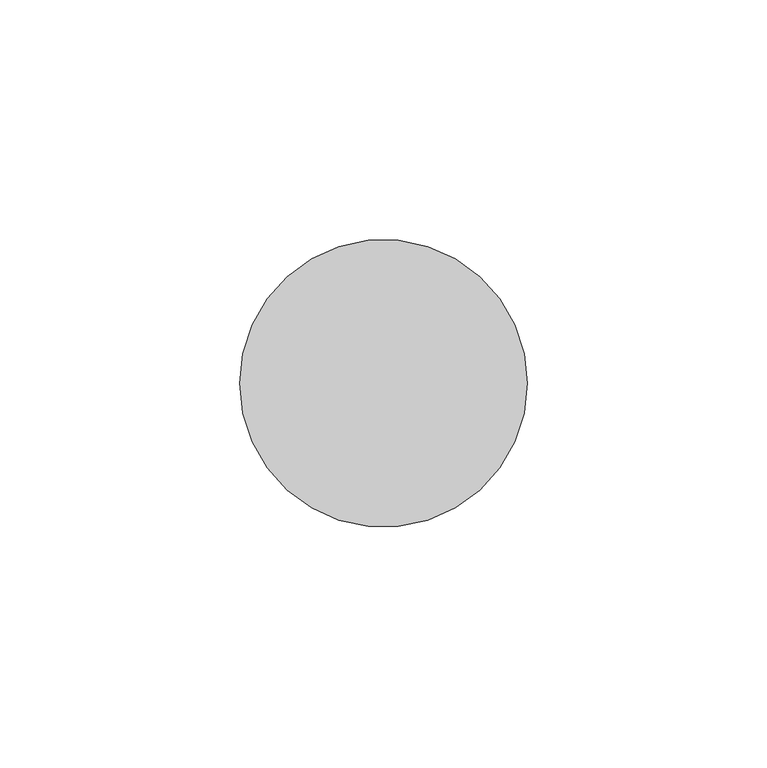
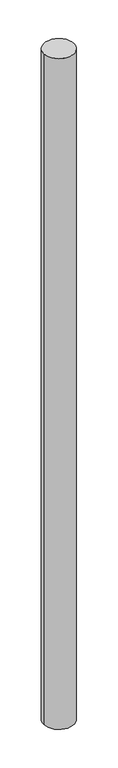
"""IFC4 building model written with IfcOpenShell, lengths in millimetres: furniture geometry, Poller : Poller."""

from ifc_helpers import new_model, si_unit, point, frame, origin, origin_2d, place, context, project, spatial, circle_curve, trimmed, segment, composite_curve, outline, extrude, source, transform, mapped, element, save


def furniture_8dd0353e(model_context):
    return source(origin(), model_context, "Body", "SweptSolid", [
        extrude(outline(composite_curve([segment(trimmed(circle_curve(origin_2d(), 30.0), [point((-30.0, 0.0))], [point((30.0, 0.0))], False, "CARTESIAN"), True, "CONTINUOUS"), segment(trimmed(circle_curve(origin_2d(), 30.0), [point((30.0, 0.0))], [point((-30.0, 0.0))], False, "CARTESIAN"), True, "CONTINUOUS")], self_intersect=False)), frame((0.0, 0.0, -200.0), z_axis=(0.0, 0.0, 1.0), x_axis=(1.0, 0.0, 0.0)), (0.0, 0.0, 1.0), 1400.0),
    ])


if __name__ == "__main__":
    model = new_model("IFC4")
    model_context = context("Model", 3, world=origin())
    ifc_project = project(units=[si_unit("LENGTHUNIT", "METRE", prefix="MILLI")], contexts=[model_context])
    site = spatial("IfcSite", under=ifc_project)
    building = spatial("IfcBuilding", under=site)
    placement = place(None, origin())
    furniture_shape = furniture_8dd0353e(model_context)
    element("IfcFurniture", 1, ObjectType="Poller : Poller", at=placement, inside=building, context=model_context, shape_type="MappedRepresentation", body=[
        mapped(furniture_shape, transform((0.0, 0.0, 0.0), x_axis=(1.0, 0.0, 0.0), y_axis=(0.0, 1.0, 0.0), z_axis=(0.0, 0.0, 1.0))),
    ])
    save(model, "model.ifc")
